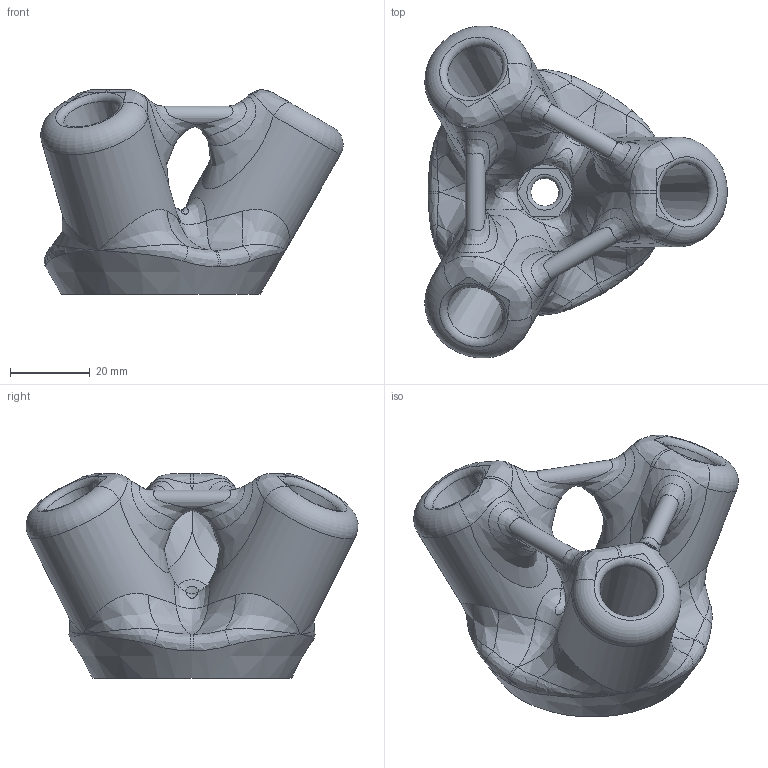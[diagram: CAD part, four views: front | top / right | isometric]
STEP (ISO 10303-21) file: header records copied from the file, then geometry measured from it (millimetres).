
FILE_DESCRIPTION(('CAx-IF Rec.Pracs.---Model Styling and Organization---1.5---2016-08-15','CAx-IF Rec.Pracs.---Geometric and Assembly Validation Properties---4.4---2016-08-17','CAx-IF Rec.Pracs.---User Defined Attributes---1.5---2016-08-15','CAx-IF Rec.Pracs.---External References---2.1---2005-01-19'),'2;1');
FILE_NAME('uploads-4d-8e-13-ac-39-Tripod_Adapter_MK_3_Final_temp.stp','2022-03-24T22:06:04',('Unspecified'),('Unspecified'),'CAD Exchanger 3.10.2 (cadexchanger.com)','Unspecified','');
FILE_SCHEMA(('AUTOMOTIVE_DESIGN { 1 0 10303 214 1 1 1 1 }'));
Length unit declared in the file: millimetre
Bounding box: 75.97 x 83.42 x 51.34 mm (x, y, z)
Volume: 90445.1 mm3; surface area: 23044.7 mm2
Topology: 1 solids, 1 shells, 118 faces, 302 edges, 159 vertices
Faces by surface type: bspline 60, plane 26, torus 17, cylinder 11, cone 4
Full cylindrical faces by diameter (mm): 7 x1, 13.856 x1, 27.655 x3
Entity records: 50847 total; most frequent: CARTESIAN_POINT 48762, ORIENTED_EDGE 562, DIRECTION 326, EDGE_CURVE 281, VERTEX_POINT 159, AXIS2_PLACEMENT_3D 154, FACE_BOUND 120, EDGE_LOOP 120
